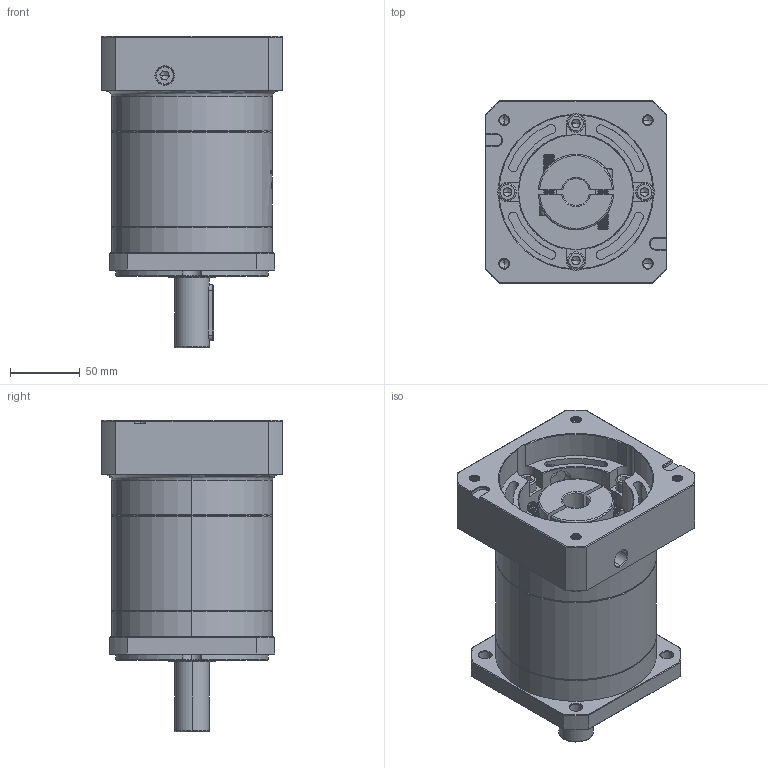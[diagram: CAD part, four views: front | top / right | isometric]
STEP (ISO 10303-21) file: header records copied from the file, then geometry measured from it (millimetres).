
FILE_DESCRIPTION (( 'STEP AP214' ), '1' );
FILE_NAME ('ZF120A-D25-L2-19-110-145-M8.step', '2023-03-07T09:29:07', ( '' ), ( '' ), 'SwSTEP 2.0', 'SolidWorks 2016', '' );
FILE_SCHEMA (( 'AUTOMOTIVE_DESIGN' ));
Length unit declared in the file: millimetre
Products named in the file (1): ZF120A-D25-L2-19-110-145-M8
Bounding box: 130 x 130 x 222.5 mm (x, y, z)
Volume: 1752612.1 mm3; surface area: 192165.9 mm2
Topology: 6 solids, 6 shells, 2001 faces, 5276 edges, 3367 vertices
Faces by surface type: plane 883, cylinder 449, cone 327, bspline 323, torus 19
Entity records: 110308 total; most frequent: CARTESIAN_POINT 42638, ORIENTED_EDGE 10492, DIRECTION 8167, EDGE_CURVE 5246, VERTEX_POINT 3367, LINE 2823, VECTOR 2823, AXIS2_PLACEMENT_3D 2672
